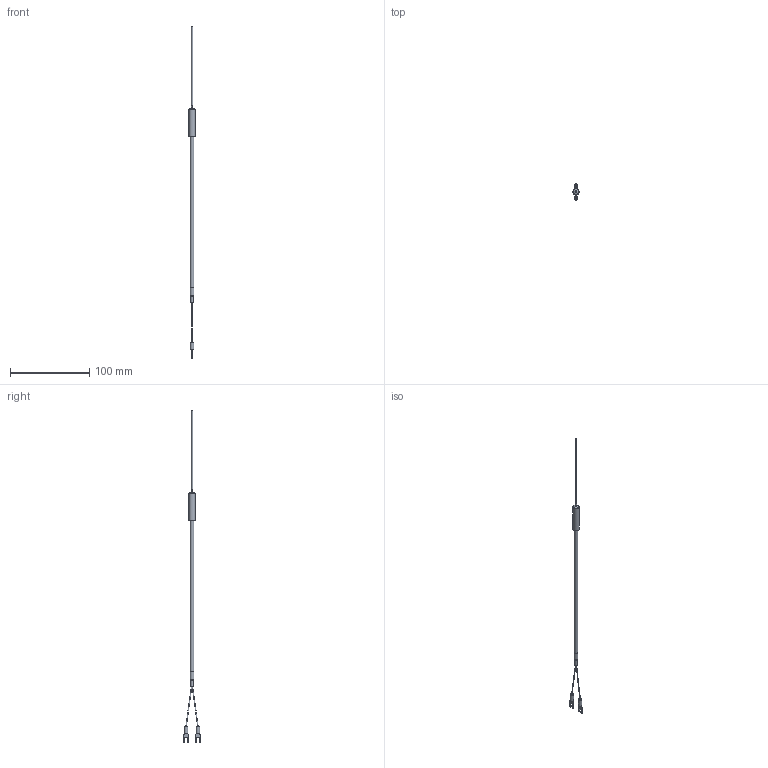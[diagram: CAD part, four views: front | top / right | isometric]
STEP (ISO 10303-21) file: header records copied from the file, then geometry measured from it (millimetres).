
FILE_DESCRIPTION (( 'STEP AP203' ), '1' );
FILE_NAME ('YIT101S-7(0).STEP', '2024-05-02T06:52:50', ( '' ), ( '' ), 'SwSTEP 2.0', 'SolidWorks 2021', '' );
FILE_SCHEMA (( 'CONFIG_CONTROL_DESIGN' ));
Length unit declared in the file: millimetre
Products named in the file (1): YIT101S-7(0)
Bounding box: 8 x 20.85 x 420 mm (x, y, z)
Volume: 6113.7 mm3; surface area: 5407.4 mm2
Topology: 1 solids, 1 shells, 68 faces, 163 edges, 106 vertices
Faces by surface type: plane 35, cylinder 21, bspline 8, torus 2, cone 2
Full cylindrical faces by diameter (mm): 1.6 x1, 3.16 x1, 4.5 x2, 4.8 x1, 5 x1, 8 x1
Entity records: 2280 total; most frequent: CARTESIAN_POINT 700, DIRECTION 304, ORIENTED_EDGE 292, EDGE_CURVE 146, AXIS2_PLACEMENT_3D 109, VERTEX_POINT 102, EDGE_LOOP 90, VECTOR 86
